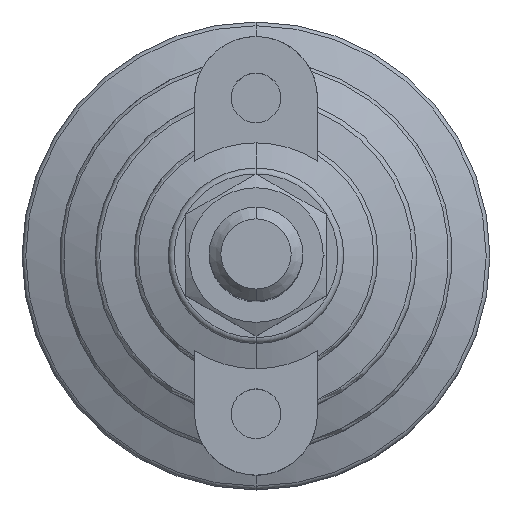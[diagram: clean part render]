
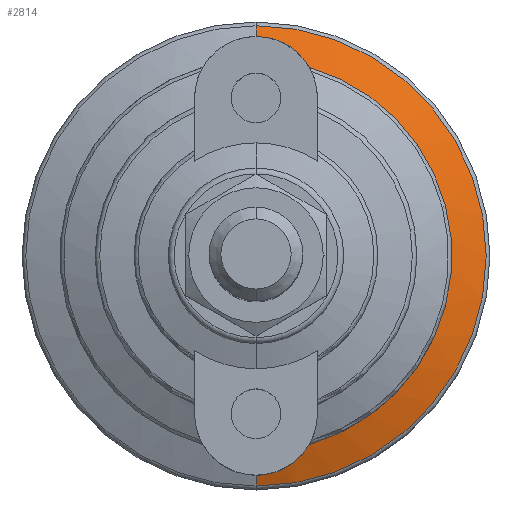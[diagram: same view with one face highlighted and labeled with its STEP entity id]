
A CAD part, top view. The second image highlights one B-rep face of the part: STEP entity #2814.
In plain terms, the highlighted conical face has half-angle 68.962 degrees and reference radius 33.5 mm.
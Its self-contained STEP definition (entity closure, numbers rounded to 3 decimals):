
#99 = CARTESIAN_POINT ( 'NONE',  ( 0., 0., 15.032 ) ) ;
#104 = DIRECTION ( 'NONE',  ( 0., 0., -1. ) ) ;
#122 = CARTESIAN_POINT ( 'NONE',  ( 1.846, 37.378, 13.527 ) ) ;
#137 = CARTESIAN_POINT ( 'NONE',  ( 7.773, 34.074, 14.475 ) ) ;
#161 = VERTEX_POINT ( 'NONE', #417 ) ;
#180 = CARTESIAN_POINT ( 'NONE',  ( 7.143, -34.709, 14.287 ) ) ;
#194 = DIRECTION ( 'NONE',  ( 0., 1., 0. ) ) ;
#197 = CARTESIAN_POINT ( 'NONE',  ( 5.695, -35.833, 13.962 ) ) ;
#216 = CARTESIAN_POINT ( 'NONE',  ( 6.797, -35.016, 14.198 ) ) ;
#257 = CARTESIAN_POINT ( 'NONE',  ( 8.621, 33.011, 14.795 ) ) ;
#289 = DIRECTION ( 'NONE',  ( 0., 1., 0. ) ) ;
#312 = CARTESIAN_POINT ( 'NONE',  ( 0., 0., 12.778 ) ) ;
#326 = CARTESIAN_POINT ( 'NONE',  ( 0., 33.5, 15.032 ) ) ;
#379 = CONICAL_SURFACE ( 'NONE', #3102, 33.5, 1.204 ) ;
#417 = CARTESIAN_POINT ( 'NONE',  ( 9.099, -32.241, 15.032 ) ) ;
#449 = CARTESIAN_POINT ( 'NONE',  ( 8.647, -33.025, 14.788 ) ) ;
#451 = DIRECTION ( 'NONE',  ( 0., -0.933, -0.359 ) ) ;
#528 = B_SPLINE_CURVE_WITH_KNOTS ( 'NONE', 3,
 ( #1162, #2403, #122, #662, #1134, #1682, #937, #1954, #1646, #2980, #686, #137, #2539, #257, #3030, #2798 ),
 .UNSPECIFIED., .F., .F.,
 ( 4, 2, 2, 2, 2, 2, 2, 4 ),
 ( 0.011, 0.014, 0.015, 0.017, 0.018, 0.019, 0.021, 0.022 ),
 .UNSPECIFIED. ) ;
#618 = DIRECTION ( 'NONE',  ( 0., 1., 0. ) ) ;
#630 = VERTEX_POINT ( 'NONE', #738 ) ;
#653 = CARTESIAN_POINT ( 'NONE',  ( 2.306, -37.254, 13.561 ) ) ;
#662 = CARTESIAN_POINT ( 'NONE',  ( 3.195, 37.013, 13.628 ) ) ;
#686 = CARTESIAN_POINT ( 'NONE',  ( 7.135, 34.716, 14.285 ) ) ;
#692 = ORIENTED_EDGE ( 'NONE', *, *, #2460, .T. ) ;
#738 = CARTESIAN_POINT ( 'NONE',  ( 0., -39.359, 12.778 ) ) ;
#817 = EDGE_CURVE ( 'NONE', #2288, #630, #1477, .T. ) ;
#824 = B_SPLINE_CURVE_WITH_KNOTS ( 'NONE', 3,
 ( #3126, #449, #2245, #180, #216, #2464, #197, #2947, #882, #957, #1185, #653, #3232, #942, #1942, #2480, #2228, #1668 ),
 .UNSPECIFIED., .F., .F.,
 ( 4, 2, 2, 2, 2, 2, 2, 2, 4 ),
 ( 0., 0.003, 0.004, 0.006, 0.007, 0.008, 0.01, 0.01, 0.011 ),
 .UNSPECIFIED. ) ;
#837 = ORIENTED_EDGE ( 'NONE', *, *, #1806, .T. ) ;
#882 = CARTESIAN_POINT ( 'NONE',  ( 4.494, -36.501, 13.772 ) ) ;
#937 = CARTESIAN_POINT ( 'NONE',  ( 4.894, 36.301, 13.829 ) ) ;
#942 = CARTESIAN_POINT ( 'NONE',  ( 1.165, -37.438, 13.51 ) ) ;
#957 = CARTESIAN_POINT ( 'NONE',  ( 3.638, -36.86, 13.671 ) ) ;
#1001 = VECTOR ( 'NONE', #451, 1000. ) ;
#1101 = ORIENTED_EDGE ( 'NONE', *, *, #817, .T. ) ;
#1134 = CARTESIAN_POINT ( 'NONE',  ( 3.635, 36.861, 13.671 ) ) ;
#1162 = CARTESIAN_POINT ( 'NONE',  ( 0., 37.5, 13.493 ) ) ;
#1185 = CARTESIAN_POINT ( 'NONE',  ( 3.197, -37.012, 13.629 ) ) ;
#1280 = AXIS2_PLACEMENT_3D ( 'NONE', #312, #104, #618 ) ;
#1449 = CIRCLE ( 'NONE', #2038, 33.5 ) ;
#1455 = VERTEX_POINT ( 'NONE', #2244 ) ;
#1477 = LINE ( 'NONE', #1723, #1001 ) ;
#1606 = LINE ( 'NONE', #326, #2104 ) ;
#1608 = EDGE_CURVE ( 'NONE', #1455, #2168, #1606, .T. ) ;
#1646 = CARTESIAN_POINT ( 'NONE',  ( 6.072, 35.579, 14.035 ) ) ;
#1668 = CARTESIAN_POINT ( 'NONE',  ( 0., -37.5, 13.493 ) ) ;
#1682 = CARTESIAN_POINT ( 'NONE',  ( 4.484, 36.506, 13.771 ) ) ;
#1683 = CARTESIAN_POINT ( 'NONE',  ( 0., 0., 15.032 ) ) ;
#1713 = CARTESIAN_POINT ( 'NONE',  ( 0., -37.5, 13.493 ) ) ;
#1723 = CARTESIAN_POINT ( 'NONE',  ( 0., -33.5, 15.032 ) ) ;
#1806 = EDGE_CURVE ( 'NONE', #1455, #2663, #528, .T. ) ;
#1942 = CARTESIAN_POINT ( 'NONE',  ( 0.934, -37.461, 13.504 ) ) ;
#1954 = CARTESIAN_POINT ( 'NONE',  ( 5.687, 35.839, 13.961 ) ) ;
#1956 = FACE_OUTER_BOUND ( 'NONE', #3206, .T. ) ;
#1957 = ORIENTED_EDGE ( 'NONE', *, *, #2319, .F. ) ;
#2038 = AXIS2_PLACEMENT_3D ( 'NONE', #99, #2576, #289 ) ;
#2104 = VECTOR ( 'NONE', #2637, 1000. ) ;
#2168 = VERTEX_POINT ( 'NONE', #2451 ) ;
#2228 = CARTESIAN_POINT ( 'NONE',  ( 0.233, -37.5, 13.493 ) ) ;
#2237 = ORIENTED_EDGE ( 'NONE', *, *, #1608, .F. ) ;
#2244 = CARTESIAN_POINT ( 'NONE',  ( 0., 37.5, 13.493 ) ) ;
#2245 = CARTESIAN_POINT ( 'NONE',  ( 8.102, -33.741, 14.573 ) ) ;
#2288 = VERTEX_POINT ( 'NONE', #1713 ) ;
#2319 = EDGE_CURVE ( 'NONE', #2168, #630, #3046, .T. ) ;
#2403 = CARTESIAN_POINT ( 'NONE',  ( 0.931, 37.5, 13.493 ) ) ;
#2451 = CARTESIAN_POINT ( 'NONE',  ( 0., 39.359, 12.778 ) ) ;
#2460 = EDGE_CURVE ( 'NONE', #161, #2288, #824, .T. ) ;
#2464 = CARTESIAN_POINT ( 'NONE',  ( 6.073, -35.578, 14.035 ) ) ;
#2480 = CARTESIAN_POINT ( 'NONE',  ( 0.468, -37.492, 13.495 ) ) ;
#2539 = CARTESIAN_POINT ( 'NONE',  ( 8.07, 33.733, 14.577 ) ) ;
#2576 = DIRECTION ( 'NONE',  ( 0., 0., -1. ) ) ;
#2593 = ORIENTED_EDGE ( 'NONE', *, *, #3185, .T. ) ;
#2637 = DIRECTION ( 'NONE',  ( 0., 0.933, -0.359 ) ) ;
#2663 = VERTEX_POINT ( 'NONE', #2784 ) ;
#2784 = CARTESIAN_POINT ( 'NONE',  ( 9.099, 32.241, 15.032 ) ) ;
#2798 = CARTESIAN_POINT ( 'NONE',  ( 9.099, 32.241, 15.032 ) ) ;
#2814 = ADVANCED_FACE ( 'NONE', ( #1956 ), #379, .T. ) ;
#2947 = CARTESIAN_POINT ( 'NONE',  ( 4.905, -36.295, 13.831 ) ) ;
#2980 = CARTESIAN_POINT ( 'NONE',  ( 6.796, 35.017, 14.197 ) ) ;
#3030 = CARTESIAN_POINT ( 'NONE',  ( 8.873, 32.633, 14.91 ) ) ;
#3046 = CIRCLE ( 'NONE', #1280, 39.359 ) ;
#3102 = AXIS2_PLACEMENT_3D ( 'NONE', #1683, #3215, #194 ) ;
#3126 = CARTESIAN_POINT ( 'NONE',  ( 9.099, -32.241, 15.032 ) ) ;
#3185 = EDGE_CURVE ( 'NONE', #2663, #161, #1449, .T. ) ;
#3206 = EDGE_LOOP ( 'NONE', ( #692, #1101, #1957, #2237, #837, #2593 ) ) ;
#3215 = DIRECTION ( 'NONE',  ( 0., 0., -1. ) ) ;
#3232 = CARTESIAN_POINT ( 'NONE',  ( 1.854, -37.345, 13.536 ) ) ;
